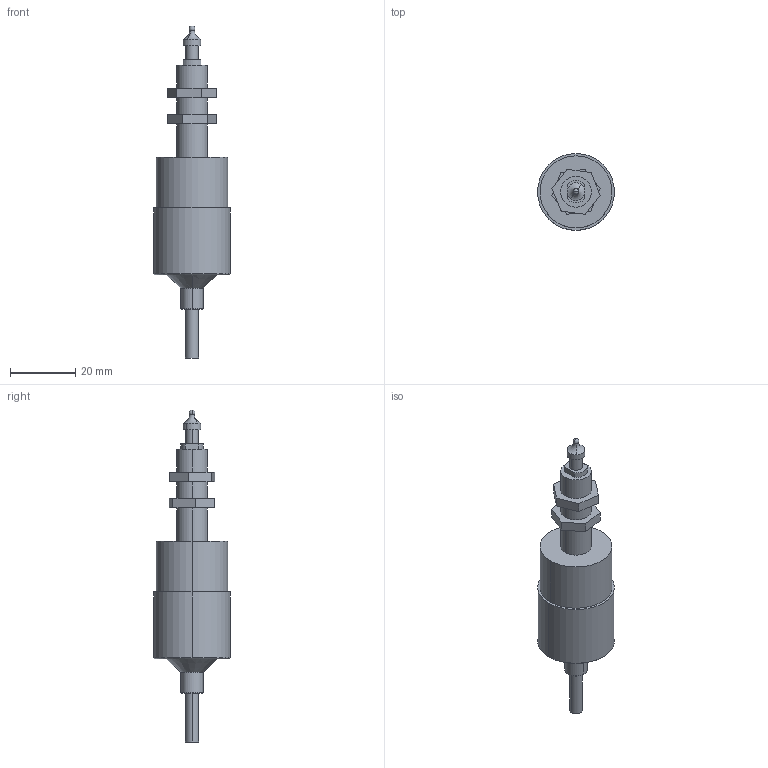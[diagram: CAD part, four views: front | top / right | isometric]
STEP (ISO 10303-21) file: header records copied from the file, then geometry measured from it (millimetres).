
FILE_DESCRIPTION(('STEP AP203'),'1');
FILE_NAME('C:/TPO v2/SharedFS/Outgoing/burster_87350-000_2vqw762jicgq18iyz6wtiv82k.stp','2013-08-26T20:23:23',('TraceParts'),('TraceParts S.A.'),'XStep 1.0',' ',' ');
FILE_SCHEMA(('CONFIG_CONTROL_DESIGN'));
Length unit declared in the file: millimetre
Products named in the file (1): 1
Bounding box: 23.6 x 23.6 x 102 mm (x, y, z)
Volume: 18425.7 mm3; surface area: 5255.1 mm2
Topology: 1 solids, 2 shells, 61 faces, 137 edges, 87 vertices
Faces by surface type: plane 27, cylinder 22, cone 8, torus 2, sphere 2
Entity records: 1730 total; most frequent: DIRECTION 318, CARTESIAN_POINT 282, ORIENTED_EDGE 266, EDGE_CURVE 133, AXIS2_PLACEMENT_3D 123, VERTEX_POINT 87, EDGE_LOOP 72, LINE 72
